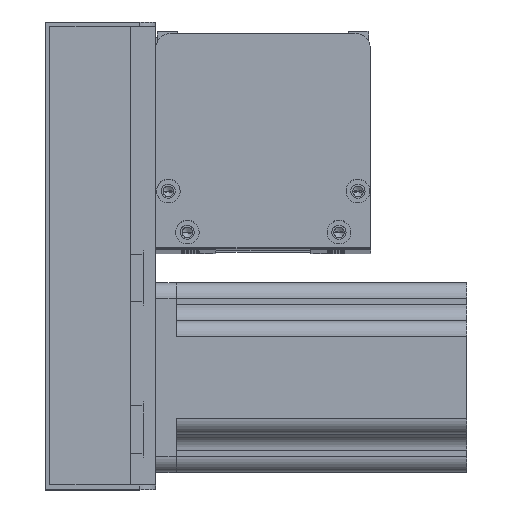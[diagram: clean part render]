
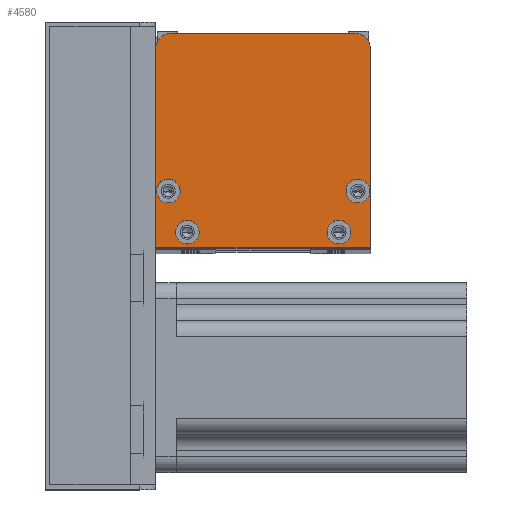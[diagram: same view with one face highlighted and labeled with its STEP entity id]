
A CAD part, top view. The second image highlights one B-rep face of the part: STEP entity #4580.
In plain terms, the highlighted planar face has unit normal (0, 0, 1) as drawn and (0, 0, -1) by its records, which use the part's own axes.
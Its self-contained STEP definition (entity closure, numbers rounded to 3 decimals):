
#123 = DIRECTION ( 'NONE',  ( 0., 0., -1. ) ) ;
#148 = AXIS2_PLACEMENT_3D ( 'NONE', #2961, #554, #16654 ) ;
#180 = CARTESIAN_POINT ( 'NONE',  ( 5., 63., 0. ) ) ;
#412 = EDGE_LOOP ( 'NONE', ( #12821, #16819 ) ) ;
#554 = DIRECTION ( 'NONE',  ( 0., 0., -1. ) ) ;
#1423 = EDGE_CURVE ( 'NONE', #26965, #23355, #25246, .T. ) ;
#1520 = DIRECTION ( 'NONE',  ( 1., 0., 0. ) ) ;
#1584 = VERTEX_POINT ( 'NONE', #19675 ) ;
#1600 = CIRCLE ( 'NONE', #28513, 3.75 ) ;
#1603 = AXIS2_PLACEMENT_3D ( 'NONE', #180, #11091, #24334 ) ;
#1707 = DIRECTION ( 'NONE',  ( 0., 0., -1. ) ) ;
#1764 = CARTESIAN_POINT ( 'NONE',  ( 68., 0., 0. ) ) ;
#1826 = VERTEX_POINT ( 'NONE', #18213 ) ;
#1841 = CARTESIAN_POINT ( 'NONE',  ( 5., 68., 0. ) ) ;
#1853 = EDGE_CURVE ( 'NONE', #8834, #15144, #27223, .T. ) ;
#1976 = AXIS2_PLACEMENT_3D ( 'NONE', #11430, #15575, #13747 ) ;
#2145 = FACE_BOUND ( 'NONE', #9050, .T. ) ;
#2156 = EDGE_LOOP ( 'NONE', ( #13023, #5362, #4174, #13626, #23599, #27076 ) ) ;
#2745 = CARTESIAN_POINT ( 'NONE',  ( 4., 18., 0. ) ) ;
#2793 = VERTEX_POINT ( 'NONE', #1841 ) ;
#2839 = DIRECTION ( 'NONE',  ( 1., 0., 0. ) ) ;
#2926 = CARTESIAN_POINT ( 'NONE',  ( 13.75, 5., 0. ) ) ;
#2938 = EDGE_CURVE ( 'NONE', #17224, #2793, #19535, .T. ) ;
#2961 = CARTESIAN_POINT ( 'NONE',  ( 58., 5., 0. ) ) ;
#3236 = CIRCLE ( 'NONE', #1603, 5. ) ;
#3776 = DIRECTION ( 'NONE',  ( 0., 0., 1. ) ) ;
#3906 = VERTEX_POINT ( 'NONE', #2926 ) ;
#4174 = ORIENTED_EDGE ( 'NONE', *, *, #2938, .F. ) ;
#4580 = ADVANCED_FACE ( 'NONE', ( #19440, #19086, #2145, #14972, #14275 ), #25676, .F. ) ;
#4595 = CARTESIAN_POINT ( 'NONE',  ( 7.75, 18., 0. ) ) ;
#5362 = ORIENTED_EDGE ( 'NONE', *, *, #22733, .T. ) ;
#6016 = DIRECTION ( 'NONE',  ( 1., 0., 0. ) ) ;
#6456 = DIRECTION ( 'NONE',  ( 0., 0., -1. ) ) ;
#6722 = DIRECTION ( 'NONE',  ( -1., 0., 0. ) ) ;
#6781 = ORIENTED_EDGE ( 'NONE', *, *, #18333, .F. ) ;
#7079 = VECTOR ( 'NONE', #2839, 1000. ) ;
#7975 = VERTEX_POINT ( 'NONE', #14165 ) ;
#8308 = CARTESIAN_POINT ( 'NONE',  ( 0., 0., 0. ) ) ;
#8320 = VECTOR ( 'NONE', #21526, 1000. ) ;
#8350 = DIRECTION ( 'NONE',  ( -1., 0., 0. ) ) ;
#8834 = VERTEX_POINT ( 'NONE', #9715 ) ;
#9050 = EDGE_LOOP ( 'NONE', ( #26954, #13931 ) ) ;
#9394 = DIRECTION ( 'NONE',  ( -1., 0., 0. ) ) ;
#9650 = VERTEX_POINT ( 'NONE', #23717 ) ;
#9680 = CARTESIAN_POINT ( 'NONE',  ( 0., 63., 0. ) ) ;
#9690 = DIRECTION ( 'NONE',  ( 0., 0., -1. ) ) ;
#9715 = CARTESIAN_POINT ( 'NONE',  ( 61.75, 5., 0. ) ) ;
#9762 = CIRCLE ( 'NONE', #25701, 3.75 ) ;
#10146 = VERTEX_POINT ( 'NONE', #4595 ) ;
#10741 = CARTESIAN_POINT ( 'NONE',  ( 4., 18., 0. ) ) ;
#10880 = CIRCLE ( 'NONE', #25871, 5. ) ;
#11091 = DIRECTION ( 'NONE',  ( 0., 0., -1. ) ) ;
#11154 = CIRCLE ( 'NONE', #1976, 3.75 ) ;
#11197 = DIRECTION ( 'NONE',  ( -1., 0., 0. ) ) ;
#11430 = CARTESIAN_POINT ( 'NONE',  ( 10., 5., 0. ) ) ;
#11686 = ORIENTED_EDGE ( 'NONE', *, *, #1853, .F. ) ;
#11908 = VERTEX_POINT ( 'NONE', #23666 ) ;
#12017 = CARTESIAN_POINT ( 'NONE',  ( 68., 0., 0. ) ) ;
#12450 = AXIS2_PLACEMENT_3D ( 'NONE', #21572, #12510, #8350 ) ;
#12510 = DIRECTION ( 'NONE',  ( 0., 0., -1. ) ) ;
#12630 = VERTEX_POINT ( 'NONE', #23200 ) ;
#12821 = ORIENTED_EDGE ( 'NONE', *, *, #18463, .F. ) ;
#13023 = ORIENTED_EDGE ( 'NONE', *, *, #1423, .F. ) ;
#13165 = AXIS2_PLACEMENT_3D ( 'NONE', #26291, #123, #15210 ) ;
#13341 = CARTESIAN_POINT ( 'NONE',  ( 68., 68., 0. ) ) ;
#13362 = EDGE_CURVE ( 'NONE', #10146, #12630, #15206, .T. ) ;
#13413 = AXIS2_PLACEMENT_3D ( 'NONE', #8308, #3776, #6016 ) ;
#13602 = VECTOR ( 'NONE', #21570, 1000. ) ;
#13626 = ORIENTED_EDGE ( 'NONE', *, *, #15615, .T. ) ;
#13747 = DIRECTION ( 'NONE',  ( -1., 0., 0. ) ) ;
#13931 = ORIENTED_EDGE ( 'NONE', *, *, #22921, .F. ) ;
#14165 = CARTESIAN_POINT ( 'NONE',  ( 67.75, 18., 0. ) ) ;
#14275 = FACE_OUTER_BOUND ( 'NONE', #2156, .T. ) ;
#14972 = FACE_BOUND ( 'NONE', #27215, .T. ) ;
#15144 = VERTEX_POINT ( 'NONE', #24236 ) ;
#15206 = CIRCLE ( 'NONE', #16320, 3.75 ) ;
#15210 = DIRECTION ( 'NONE',  ( -1., 0., 0. ) ) ;
#15386 = VECTOR ( 'NONE', #11197, 1000. ) ;
#15575 = DIRECTION ( 'NONE',  ( 0., 0., -1. ) ) ;
#15615 = EDGE_CURVE ( 'NONE', #17224, #9650, #10880, .T. ) ;
#16050 = EDGE_CURVE ( 'NONE', #23355, #11908, #17085, .T. ) ;
#16320 = AXIS2_PLACEMENT_3D ( 'NONE', #2745, #17910, #9394 ) ;
#16333 = EDGE_CURVE ( 'NONE', #11908, #9650, #25344, .T. ) ;
#16654 = DIRECTION ( 'NONE',  ( -1., 0., 0. ) ) ;
#16819 = ORIENTED_EDGE ( 'NONE', *, *, #13362, .F. ) ;
#16851 = EDGE_CURVE ( 'NONE', #15144, #8834, #9762, .T. ) ;
#17081 = CARTESIAN_POINT ( 'NONE',  ( 0., 0., 0. ) ) ;
#17085 = LINE ( 'NONE', #12017, #7079 ) ;
#17224 = VERTEX_POINT ( 'NONE', #21189 ) ;
#17910 = DIRECTION ( 'NONE',  ( 0., 0., -1. ) ) ;
#18213 = CARTESIAN_POINT ( 'NONE',  ( 60.25, 18., 0. ) ) ;
#18228 = EDGE_LOOP ( 'NONE', ( #27882, #6781 ) ) ;
#18333 = EDGE_CURVE ( 'NONE', #7975, #1826, #24245, .T. ) ;
#18463 = EDGE_CURVE ( 'NONE', #12630, #10146, #18694, .T. ) ;
#18694 = CIRCLE ( 'NONE', #25754, 3.75 ) ;
#19086 = FACE_BOUND ( 'NONE', #412, .T. ) ;
#19373 = CARTESIAN_POINT ( 'NONE',  ( 63., 63., 0. ) ) ;
#19440 = FACE_BOUND ( 'NONE', #18228, .T. ) ;
#19535 = LINE ( 'NONE', #13341, #15386 ) ;
#19675 = CARTESIAN_POINT ( 'NONE',  ( 6.25, 5., 0. ) ) ;
#19705 = CARTESIAN_POINT ( 'NONE',  ( 0., 0., 0. ) ) ;
#21189 = CARTESIAN_POINT ( 'NONE',  ( 63., 68., 0. ) ) ;
#21526 = DIRECTION ( 'NONE',  ( 0., -1., 0. ) ) ;
#21570 = DIRECTION ( 'NONE',  ( 0., 1., 0. ) ) ;
#21572 = CARTESIAN_POINT ( 'NONE',  ( 64., 18., 0. ) ) ;
#22278 = CIRCLE ( 'NONE', #13165, 3.75 ) ;
#22733 = EDGE_CURVE ( 'NONE', #26965, #2793, #3236, .T. ) ;
#22921 = EDGE_CURVE ( 'NONE', #3906, #1584, #11154, .T. ) ;
#23200 = CARTESIAN_POINT ( 'NONE',  ( 0.25, 18., 0. ) ) ;
#23355 = VERTEX_POINT ( 'NONE', #19705 ) ;
#23599 = ORIENTED_EDGE ( 'NONE', *, *, #16333, .F. ) ;
#23666 = CARTESIAN_POINT ( 'NONE',  ( 68., 0., 0. ) ) ;
#23717 = CARTESIAN_POINT ( 'NONE',  ( 68., 63., 0. ) ) ;
#24203 = CARTESIAN_POINT ( 'NONE',  ( 58., 5., 0. ) ) ;
#24236 = CARTESIAN_POINT ( 'NONE',  ( 54.25, 5., 0. ) ) ;
#24245 = CIRCLE ( 'NONE', #12450, 3.75 ) ;
#24334 = DIRECTION ( 'NONE',  ( 1., 0., 0. ) ) ;
#24766 = CARTESIAN_POINT ( 'NONE',  ( 64., 18., 0. ) ) ;
#25246 = LINE ( 'NONE', #17081, #8320 ) ;
#25344 = LINE ( 'NONE', #1764, #13602 ) ;
#25676 = PLANE ( 'NONE',  #13413 ) ;
#25701 = AXIS2_PLACEMENT_3D ( 'NONE', #24203, #6456, #6722 ) ;
#25754 = AXIS2_PLACEMENT_3D ( 'NONE', #10741, #26191, #26371 ) ;
#25871 = AXIS2_PLACEMENT_3D ( 'NONE', #19373, #1707, #1520 ) ;
#26191 = DIRECTION ( 'NONE',  ( 0., 0., -1. ) ) ;
#26291 = CARTESIAN_POINT ( 'NONE',  ( 10., 5., 0. ) ) ;
#26371 = DIRECTION ( 'NONE',  ( -1., 0., 0. ) ) ;
#26893 = DIRECTION ( 'NONE',  ( -1., 0., 0. ) ) ;
#26954 = ORIENTED_EDGE ( 'NONE', *, *, #28633, .F. ) ;
#26965 = VERTEX_POINT ( 'NONE', #9680 ) ;
#27076 = ORIENTED_EDGE ( 'NONE', *, *, #16050, .F. ) ;
#27215 = EDGE_LOOP ( 'NONE', ( #27542, #11686 ) ) ;
#27223 = CIRCLE ( 'NONE', #148, 3.75 ) ;
#27542 = ORIENTED_EDGE ( 'NONE', *, *, #16851, .F. ) ;
#27737 = EDGE_CURVE ( 'NONE', #1826, #7975, #1600, .T. ) ;
#27882 = ORIENTED_EDGE ( 'NONE', *, *, #27737, .F. ) ;
#28513 = AXIS2_PLACEMENT_3D ( 'NONE', #24766, #9690, #26893 ) ;
#28633 = EDGE_CURVE ( 'NONE', #1584, #3906, #22278, .T. ) ;
